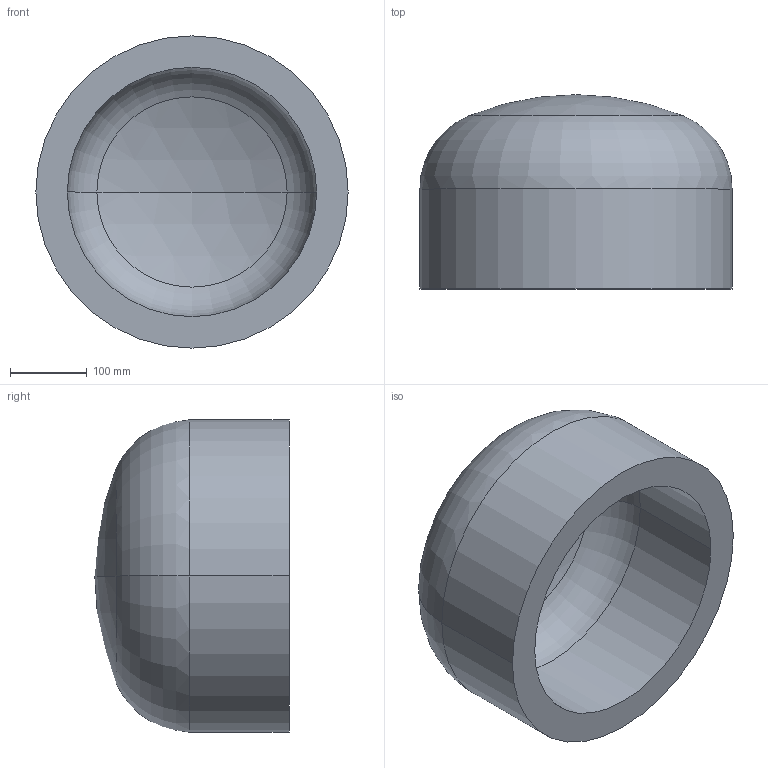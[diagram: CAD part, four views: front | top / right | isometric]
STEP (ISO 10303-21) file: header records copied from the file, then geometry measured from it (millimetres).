
FILE_DESCRIPTION (( 'STEP AP203' ), '1' );
FILE_NAME ('DIN 28013 Korbbogenform_-_Boden DIN 28013 - 406,4 x 130 - I - s=41.step', '2016-07-01T07:50:57', ( '' ), ( '' ), 'SwSTEP 2.0', 'SolidWorks 2013', '' );
FILE_SCHEMA (( 'CONFIG_CONTROL_DESIGN' ));
Length unit declared in the file: millimetre
Products named in the file (1): DIN 28013 Korbbogenform_-_Boden DIN 28013 - 406,4 x 130 - I - s=41
Bounding box: 406.4 x 252.84 x 406.4 mm (x, y, z)
Volume: 12607677.5 mm3; surface area: 665594.7 mm2
Topology: 1 solids, 1 shells, 13 faces, 24 edges, 14 vertices
Faces by surface type: torus 4, cylinder 4, sphere 4, plane 1
Entity records: 407 total; most frequent: DIRECTION 72, CARTESIAN_POINT 52, ORIENTED_EDGE 48, AXIS2_PLACEMENT_3D 34, EDGE_CURVE 24, CIRCLE 20, EDGE_LOOP 14, VERTEX_POINT 14
